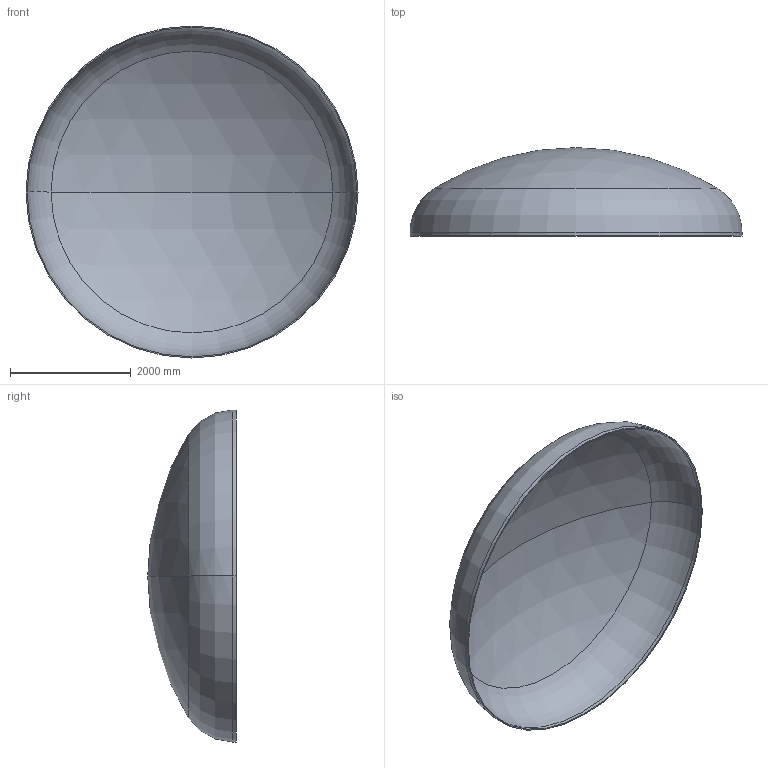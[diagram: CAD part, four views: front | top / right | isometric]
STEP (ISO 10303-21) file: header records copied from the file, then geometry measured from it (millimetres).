
FILE_DESCRIPTION (( 'STEP AP203' ), '1' );
FILE_NAME ('DIN 28013 Korbbogenform_-_Boden DIN 28013 - 5500 x 60 - I - s=19.step', '2016-07-04T10:33:41', ( '' ), ( '' ), 'SwSTEP 2.0', 'SolidWorks 2013', '' );
FILE_SCHEMA (( 'CONFIG_CONTROL_DESIGN' ));
Length unit declared in the file: millimetre
Products named in the file (1): DIN 28013 Korbbogenform_-_Boden DIN 28013 - 5500 x 60 - I - s=19
Bounding box: 5500 x 1465.53 x 5500 mm (x, y, z)
Volume: 641726367.8 mm3; surface area: 67878035 mm2
Topology: 1 solids, 1 shells, 13 faces, 24 edges, 14 vertices
Faces by surface type: torus 4, cylinder 4, sphere 4, plane 1
Entity records: 407 total; most frequent: DIRECTION 72, CARTESIAN_POINT 52, ORIENTED_EDGE 48, AXIS2_PLACEMENT_3D 34, EDGE_CURVE 24, CIRCLE 20, EDGE_LOOP 14, VERTEX_POINT 14
